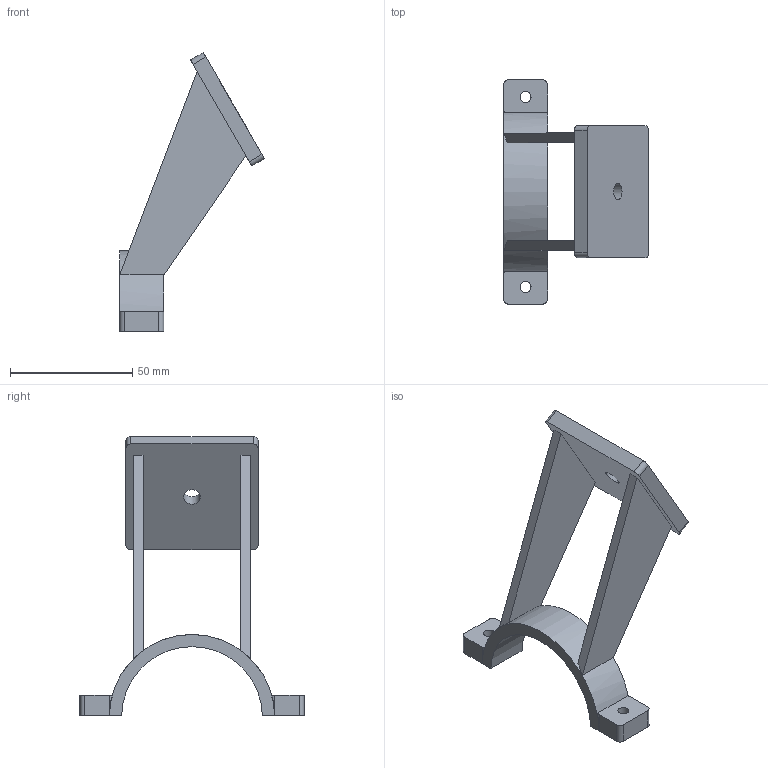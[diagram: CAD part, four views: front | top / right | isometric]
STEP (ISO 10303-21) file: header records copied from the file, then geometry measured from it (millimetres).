
FILE_DESCRIPTION(('Open CASCADE Model'),'2;1');
FILE_NAME('Open CASCADE Shape Model','2026-09-19T10:08:23',('Author'),( 'Open CASCADE'),'Open CASCADE STEP processor 7.9','Open CASCADE 7.9' ,'Unknown');
FILE_SCHEMA(('AUTOMOTIVE_DESIGN { 1 0 10303 214 1 1 1 1 }'));
Length unit declared in the file: millimetre
Products named in the file (1): Open CASCADE STEP translator 7.9 2
Bounding box: 59.22 x 91.6 x 113.9 mm (x, y, z)
Volume: 42335.7 mm3; surface area: 20552.2 mm2
Topology: 1 solids, 1 shells, 43 faces, 123 edges, 82 vertices
Faces by surface type: plane 26, cylinder 17
Full cylindrical faces by diameter (mm): 4.5 x2, 6.8 x1
Entity records: 3258 total; most frequent: CARTESIAN_POINT 887, DIRECTION 417, ORIENTED_EDGE 246, PCURVE 246, DEFINITIONAL_REPRESENTATION 246, LINE 233, VECTOR 233, EDGE_CURVE 123
